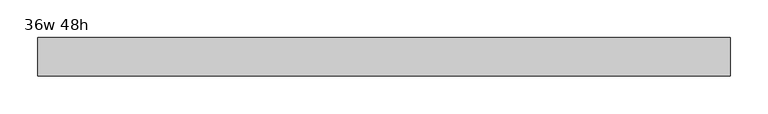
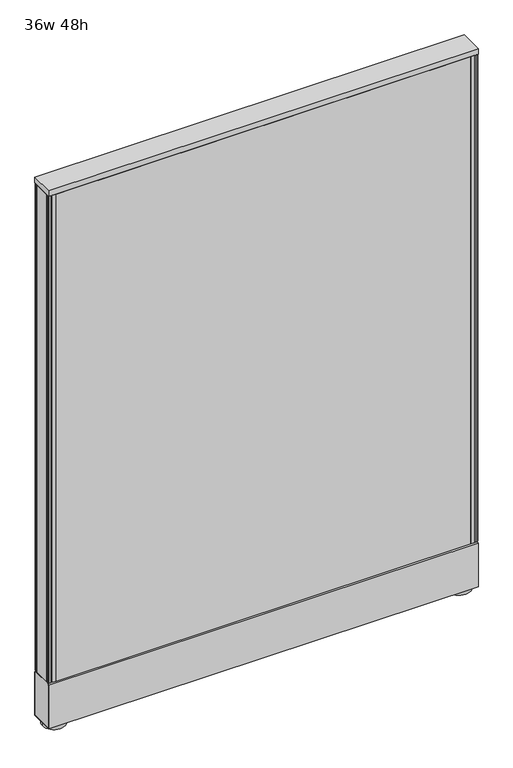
"""IFC4 building model written with IfcOpenShell, lengths in millimetres: furniture geometry, Haworth_UniGroupToo_Panel_Solid : 36w 48h."""

from ifc_helpers import new_model, si_unit, point, frame, frame_2d, origin, origin_with_axes, place, context, project, spatial, polyline, circle_curve, trimmed, segment, composite_curve, outline, extrude, source, transform, mapped, element, save


def furniture_36w_48h_2bd5d2fd(model_context):
    return source(origin(), model_context, "Body", "SweptSolid", [
        extrude(outline(polyline([(-438.8847098, 25.4), (443.7652902, 25.4), (443.7652902, 12.7), (-438.8847098, 12.7), (-438.8847098, 25.4)])), frame((0.0, 0.0, 111.125), z_axis=(0.0, 0.0, 1.0), x_axis=(1.0, 0.0, 0.0)), (0.0, 0.0, 1.0), 1095.375),
        extrude(outline(polyline([(443.7652902, -25.4), (-438.8847098, -25.4), (-438.8847098, -12.7), (443.7652902, -12.7), (443.7652902, -25.4)])), frame((0.0, 0.0, 111.125), z_axis=(0.0, 0.0, 1.0), x_axis=(1.0, 0.0, 0.0)), (0.0, 0.0, 1.0), 1095.375),
        extrude(outline(polyline([(-454.7597098, -16.5777477), (-454.7597098, 16.5777477), (-453.0959283, 16.5777477), (-453.0959283, 19.6514836), (-454.7597098, 19.6514836), (-454.7597098, 23.7362925), (-453.0960023, 25.4), (-449.9358151, 25.4), (-449.9358151, 16.3224762), (-446.7639389, 16.3224762), (-446.7639389, 25.4), (-438.8847098, 25.4), (-438.8847098, -25.4), (-446.7639389, -25.4), (-446.7639389, -16.3224762), (-449.9358151, -16.3224762), (-449.9358151, -25.4), (-453.0960023, -25.4), (-454.7597098, -23.7362925), (-454.7597098, -19.6514836), (-453.0959283, -19.6514836), (-453.0959283, -16.5777477), (-454.7597098, -16.5777477)])), frame((0.0, 0.0, 111.125), z_axis=(0.0, 0.0, 1.0), x_axis=(1.0, 0.0, 0.0)), (0.0, 0.0, 1.0), 1095.375),
        extrude(outline(polyline([(459.6402902, -16.5777477), (457.9765086, -16.5777477), (457.9765086, -19.6514836), (459.6402902, -19.6514836), (459.6402902, -23.7362925), (457.9765827, -25.4), (454.8163954, -25.4), (454.8163954, -16.3224762), (451.6445192, -16.3224762), (451.6445192, -25.4), (443.7652902, -25.4), (443.7652902, 25.4), (451.6445192, 25.4), (451.6445192, 16.3224762), (454.8163954, 16.3224762), (454.8163954, 25.4), (457.9765827, 25.4), (459.6402902, 23.7362925), (459.6402902, 19.6514836), (457.9765086, 19.6514836), (457.9765086, 16.5777477), (459.6402902, 16.5777477), (459.6402902, -16.5777477)])), frame((0.0, 0.0, 111.125), z_axis=(0.0, 0.0, 1.0), x_axis=(1.0, 0.0, 0.0)), (0.0, 0.0, 1.0), 1095.375),
        extrude(outline(composite_curve([segment(trimmed(circle_curve(frame_2d((-429.3597098, 0.0)), 23.8125), [point((-453.1722098, 0.0))], [point((-405.5472098, 0.0))], False, "CARTESIAN"), True, "CONTINUOUS"), segment(trimmed(circle_curve(frame_2d((-429.3597098, 0.0)), 23.8125), [point((-405.5472098, 0.0))], [point((-453.1722098, 0.0))], False, "CARTESIAN"), True, "CONTINUOUS")], self_intersect=False)), origin_with_axes(), (0.0, 0.0, 1.0), 9.525),
        extrude(outline(composite_curve([segment(trimmed(circle_curve(frame_2d((434.2402902, 0.0)), 23.8125), [point((410.4277902, 0.0))], [point((458.0527902, 0.0))], False, "CARTESIAN"), True, "CONTINUOUS"), segment(trimmed(circle_curve(frame_2d((434.2402902, 0.0)), 23.8125), [point((458.0527902, 0.0))], [point((410.4277902, 0.0))], False, "CARTESIAN"), True, "CONTINUOUS")], self_intersect=False)), origin_with_axes(), (0.0, 0.0, 1.0), 9.525),
        extrude(outline(polyline([(-23.9117188, 11.0132813), (-23.9117188, 107.188), (-21.463, 109.6367188), (21.463, 109.6367188), (23.9117187, 107.188), (23.9117187, 11.0132813), (-23.9117188, 11.0132813)])), frame((458.0527902, 0.0, 0.0), z_axis=(1.0, 0.0, 0.0), x_axis=(0.0, 1.0, 0.0)), (0.0, 0.0, 1.0), 1.5875),
        extrude(outline(polyline([(-23.9117188, 11.0132813), (-23.9117188, 107.188), (-21.463, 109.6367188), (21.463, 109.6367188), (23.9117187, 107.188), (23.9117187, 11.0132813), (-23.9117188, 11.0132813)])), frame((-454.7597098, 0.0, 0.0), z_axis=(1.0, 0.0, 0.0), x_axis=(0.0, 1.0, 0.0)), (0.0, 0.0, 1.0), 1.5875),
        extrude(outline(polyline([(459.6402902, 25.4), (459.6402902, -25.4), (-454.7597098, -25.4), (-454.7597098, 25.4), (459.6402902, 25.4)])), frame((0.0, 0.0, 1206.5), z_axis=(0.0, 0.0, 1.0), x_axis=(1.0, 0.0, 0.0)), (0.0, 0.0, 1.0), 12.7),
        extrude(outline(polyline([(-25.4, 107.188), (-21.463, 111.125), (-21.463, 109.6367188), (-23.9117188, 107.188), (-23.9117188, 11.0132813), (23.9117188, 11.0132813), (23.9117188, 107.188), (21.463, 109.6367188), (21.463, 111.125), (25.4, 107.188), (25.4, 9.525), (-25.4, 9.525), (-25.4, 107.188)])), frame((-454.7597098, 0.0, 0.0), z_axis=(1.0, 0.0, 0.0), x_axis=(0.0, 1.0, 0.0)), (0.0, 0.0, 1.0), 914.4),
    ])


if __name__ == "__main__":
    model = new_model("IFC4")
    model_context = context("Model", 3, world=origin())
    ifc_project = project(units=[si_unit("LENGTHUNIT", "METRE", prefix="MILLI")], contexts=[model_context])
    site = spatial("IfcSite", under=ifc_project)
    building = spatial("IfcBuilding", under=site)
    placement = place(None, origin())
    furniture_36w_48h_shape = furniture_36w_48h_2bd5d2fd(model_context)
    element("IfcFurniture", 1, ObjectType="Haworth_UniGroupToo_Panel_Solid : 36w 48h", at=placement, inside=building, context=model_context, shape_type="MappedRepresentation", body=[
        mapped(furniture_36w_48h_shape, transform((0.0, 0.0, 0.0), x_axis=(1.0, 0.0, 0.0), y_axis=(0.0, 1.0, 0.0), z_axis=(0.0, 0.0, 1.0))),
    ])
    save(model, "model.ifc")
